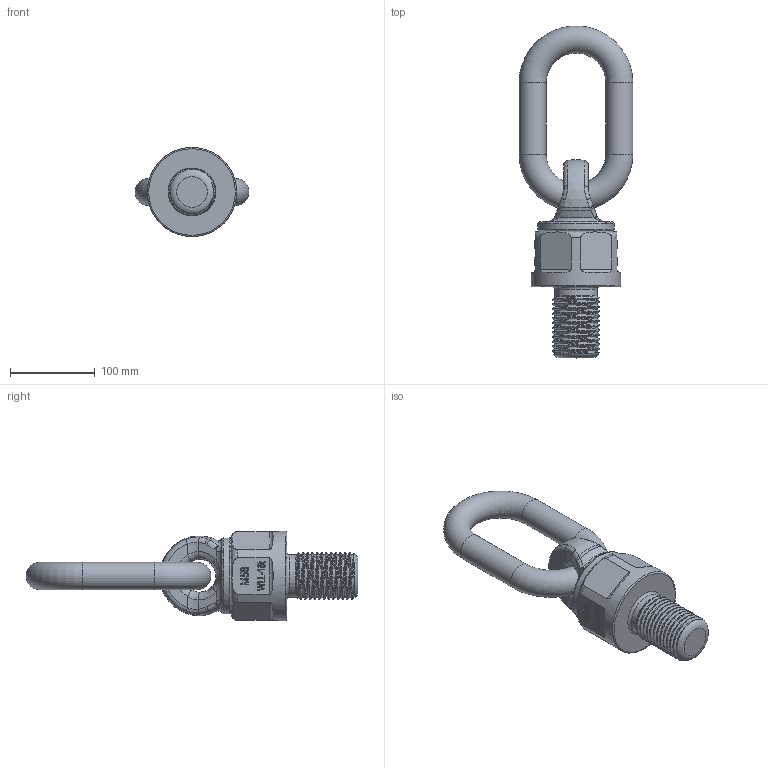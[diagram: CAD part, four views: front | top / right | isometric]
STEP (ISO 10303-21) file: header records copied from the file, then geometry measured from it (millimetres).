
FILE_DESCRIPTION(/* description */ (''),/* implementation_level */ '2;1');
FILE_NAME(/* name */ 'YTJ-M56.stp',/* time_stamp */ '2025-04-02T11:23:26+08:00',/* author */ (''),/* organization */ (''),/* preprocessor_version */ 'ST-DEVELOPER v16',/* originating_system */ 'SIEMENS PLM Software NX 10.0',/* authorisation */ '');
FILE_SCHEMA (('AP203_CONFIGURATION_CONTROLLED_3D_DESIGN_OF_MECHANICAL_PARTS_AND_ASSEMBLIES_MIM_LF { 1 0 10303 403 2 1 2}'));
Length unit declared in the file: millimetre
Products named in the file (1): Admi177C9AD32i9v
Bounding box: 134 x 390.7 x 105 mm (x, y, z)
Volume: 1314145.5 mm3; surface area: 151609.7 mm2
Topology: 3 solids, 3 shells, 268 faces, 684 edges, 436 vertices
Faces by surface type: plane 125, bspline 46, cylinder 38, torus 28, extrusion 27, cone 3, sphere 1
Full cylindrical faces by diameter (mm): 32 x2, 49.8 x1, 59.5 x1, 60 x1, 90 x1, 105 x1
Entity records: 11678 total; most frequent: CARTESIAN_POINT 5812, ORIENTED_EDGE 1302, DIRECTION 976, EDGE_CURVE 651, VERTEX_POINT 425, AXIS2_PLACEMENT_3D 344, EDGE_LOOP 306, VECTOR 288
